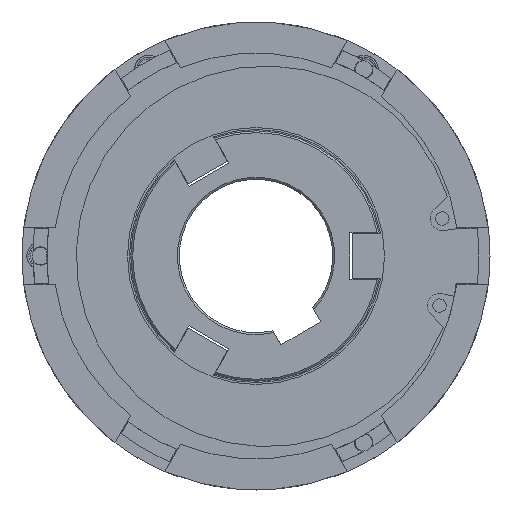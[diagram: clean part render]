
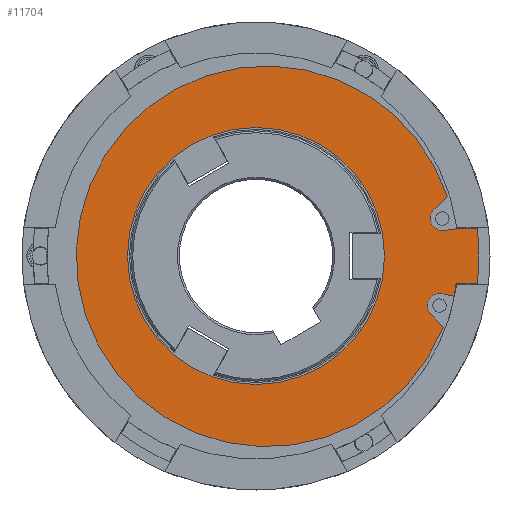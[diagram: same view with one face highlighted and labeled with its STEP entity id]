
A CAD part, left-side view. The second image highlights one B-rep face of the part: STEP entity #11704.
In plain terms, the highlighted planar face has unit normal (-1, 0, 0).
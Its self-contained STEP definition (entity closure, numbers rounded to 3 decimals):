
#208=FACE_BOUND('',#3750,.T.);
#868=LINE('',#20489,#1767);
#871=LINE('',#20497,#1770);
#874=LINE('',#20505,#1773);
#878=LINE('',#20512,#1777);
#1097=LINE('',#21432,#1996);
#1098=LINE('',#21435,#1997);
#1767=VECTOR('',#14540,10.);
#1770=VECTOR('',#14549,10.);
#1773=VECTOR('',#14558,10.);
#1777=VECTOR('',#14568,10.);
#1996=VECTOR('',#15471,10.);
#1997=VECTOR('',#15474,10.);
#2504=PLANE('',#12783);
#3012=FACE_OUTER_BOUND('',#3749,.T.);
#3749=EDGE_LOOP('',(#9551,#9552,#9553,#9554,#9555,#9556,#9557,#9558,#9559,
#9560,#9561));
#3750=EDGE_LOOP('',(#9562));
#4301=CIRCLE('',#12432,3.15);
#4302=CIRCLE('',#12435,49.622);
#4303=CIRCLE('',#12438,3.15);
#4476=CIRCLE('',#12784,52.675);
#4477=CIRCLE('',#12785,58.125);
#4478=CIRCLE('',#12786,33.5);
#5170=VERTEX_POINT('',#20394);
#5176=VERTEX_POINT('',#20409);
#5201=VERTEX_POINT('',#20481);
#5202=VERTEX_POINT('',#20483);
#5203=VERTEX_POINT('',#20487);
#5204=VERTEX_POINT('',#20491);
#5205=VERTEX_POINT('',#20495);
#5206=VERTEX_POINT('',#20499);
#5468=VERTEX_POINT('',#21429);
#5469=VERTEX_POINT('',#21431);
#5470=VERTEX_POINT('',#21433);
#5471=VERTEX_POINT('',#21436);
#6476=EDGE_CURVE('',#5202,#5201,#4301,.T.);
#6479=EDGE_CURVE('',#5201,#5203,#868,.T.);
#6481=EDGE_CURVE('',#5203,#5204,#4302,.T.);
#6483=EDGE_CURVE('',#5204,#5205,#871,.T.);
#6485=EDGE_CURVE('',#5205,#5206,#4303,.T.);
#6487=EDGE_CURVE('',#5206,#5176,#874,.T.);
#6492=EDGE_CURVE('',#5170,#5202,#878,.T.);
#6896=EDGE_CURVE('',#5176,#5468,#4476,.T.);
#6897=EDGE_CURVE('',#5468,#5469,#1097,.T.);
#6898=EDGE_CURVE('',#5470,#5469,#4477,.T.);
#6899=EDGE_CURVE('',#5470,#5170,#1098,.T.);
#6900=EDGE_CURVE('',#5471,#5471,#4478,.T.);
#9551=ORIENTED_EDGE('',*,*,#6487,.T.);
#9552=ORIENTED_EDGE('',*,*,#6896,.T.);
#9553=ORIENTED_EDGE('',*,*,#6897,.T.);
#9554=ORIENTED_EDGE('',*,*,#6898,.F.);
#9555=ORIENTED_EDGE('',*,*,#6899,.T.);
#9556=ORIENTED_EDGE('',*,*,#6492,.T.);
#9557=ORIENTED_EDGE('',*,*,#6476,.T.);
#9558=ORIENTED_EDGE('',*,*,#6479,.T.);
#9559=ORIENTED_EDGE('',*,*,#6481,.T.);
#9560=ORIENTED_EDGE('',*,*,#6483,.T.);
#9561=ORIENTED_EDGE('',*,*,#6485,.T.);
#9562=ORIENTED_EDGE('',*,*,#6900,.T.);
#11704=ADVANCED_FACE('',(#3012,#208),#2504,.F.);
#12432=AXIS2_PLACEMENT_3D('',#20484,#14534,#14535);
#12435=AXIS2_PLACEMENT_3D('',#20493,#14544,#14545);
#12438=AXIS2_PLACEMENT_3D('',#20501,#14553,#14554);
#12783=AXIS2_PLACEMENT_3D('',#21428,#15467,#15468);
#12784=AXIS2_PLACEMENT_3D('',#21430,#15469,#15470);
#12785=AXIS2_PLACEMENT_3D('',#21434,#15472,#15473);
#12786=AXIS2_PLACEMENT_3D('',#21437,#15475,#15476);
#14534=DIRECTION('center_axis',(1.,0.,0.));
#14535=DIRECTION('ref_axis',(0.,-0.691,-0.722));
#14540=DIRECTION('',(0.,-0.722,0.691));
#14544=DIRECTION('center_axis',(-1.,0.,0.));
#14545=DIRECTION('ref_axis',(0.,-0.95,0.312));
#14549=DIRECTION('',(0.,0.676,0.737));
#14553=DIRECTION('center_axis',(1.,0.,0.));
#14554=DIRECTION('ref_axis',(0.,0.199,-0.98));
#14558=DIRECTION('',(0.,-0.98,-0.199));
#14568=DIRECTION('',(0.,0.991,-0.135));
#15467=DIRECTION('center_axis',(1.,0.,0.));
#15468=DIRECTION('ref_axis',(0.,-0.866,0.5));
#15469=DIRECTION('center_axis',(-1.,0.,0.));
#15470=DIRECTION('ref_axis',(0.,-0.614,-0.789));
#15471=DIRECTION('',(0.,-1.,0.));
#15472=DIRECTION('center_axis',(1.,0.,0.));
#15473=DIRECTION('ref_axis',(0.,-0.866,0.5));
#15474=DIRECTION('',(0.,1.,0.));
#15475=DIRECTION('center_axis',(1.,0.,0.));
#15476=DIRECTION('ref_axis',(0.,-0.866,0.5));
#20394=CARTESIAN_POINT('',(-57.5,-53.341,7.25));
#20409=CARTESIAN_POINT('',(-57.5,-51.621,-10.487));
#20481=CARTESIAN_POINT('',(-57.5,-46.397,12.057));
#20483=CARTESIAN_POINT('',(-57.5,-48.999,6.66));
#20484=CARTESIAN_POINT('Origin',(-57.5,-48.575,9.781));
#20487=CARTESIAN_POINT('',(-57.5,-49.904,15.413));
#20489=CARTESIAN_POINT('',(-57.5,-31.277,-2.413));
#20491=CARTESIAN_POINT('',(-57.5,-48.791,-18.638));
#20493=CARTESIAN_POINT('Origin',(-57.5,-2.765,-0.09));
#20495=CARTESIAN_POINT('',(-57.5,-45.511,-15.061));
#20497=CARTESIAN_POINT('',(-57.5,-33.007,-1.423));
#20499=CARTESIAN_POINT('',(-57.5,-48.46,-9.845));
#20501=CARTESIAN_POINT('Origin',(-57.5,-47.833,-12.932));
#20505=CARTESIAN_POINT('',(-57.5,-24.23,-4.922));
#20512=CARTESIAN_POINT('',(-57.5,-27.002,3.67));
#21428=CARTESIAN_POINT('Origin',(-57.5,0.,0.));
#21429=CARTESIAN_POINT('',(-57.5,-52.174,-7.25));
#21430=CARTESIAN_POINT('Origin',(-57.5,0.,0.));
#21431=CARTESIAN_POINT('',(-57.5,-57.671,-7.25));
#21432=CARTESIAN_POINT('',(-57.5,-56.123,-7.25));
#21433=CARTESIAN_POINT('',(-57.5,-57.671,7.25));
#21434=CARTESIAN_POINT('Origin',(-57.5,0.,0.));
#21435=CARTESIAN_POINT('',(-57.5,-26.087,7.25));
#21436=CARTESIAN_POINT('',(-57.5,29.012,-16.75));
#21437=CARTESIAN_POINT('Origin',(-57.5,0.,0.));
